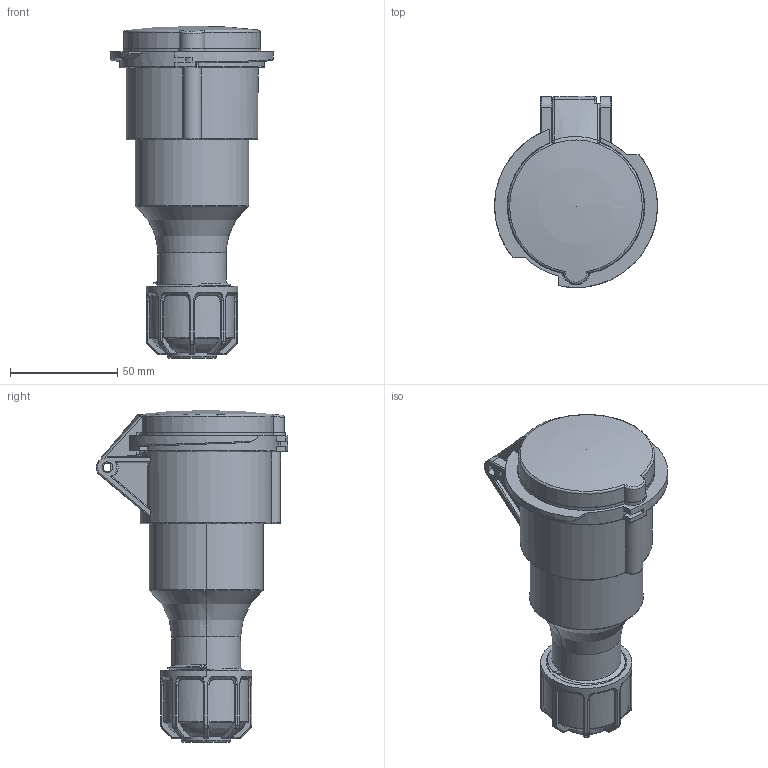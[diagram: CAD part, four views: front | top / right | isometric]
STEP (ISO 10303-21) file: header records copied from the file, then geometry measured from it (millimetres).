
FILE_DESCRIPTION(('FreeCAD Model'),'2;1');
FILE_NAME('Open CASCADE Shape Model','2026-02-04T09:27:41',(''),(''), 'Open CASCADE STEP processor 7.8','FreeCAD','Unknown');
FILE_SCHEMA(('AUTOMOTIVE_DESIGN { 1 0 10303 214 1 1 1 1 }'));
Length unit declared in the file: millimetre
Products named in the file (4): TL3T16453; Tampa; Prensa cabo; Corpo tomada
Assembly tree (3 placements, depth 2):
  TL3T16453
    Tampa
    Prensa cabo
    Corpo tomada
Bounding box: 75.78 x 88.98 x 154.5 mm (x, y, z)
Volume: 278439.9 mm3; surface area: 61250 mm2
Topology: 3 solids, 40 shells, 713 faces, 1749 edges, 1121 vertices
Faces by surface type: plane 272, bspline 200, cylinder 144, torus 55, sphere 21, cone 21
Full cylindrical faces by diameter (mm): 7.5 x1
Entity records: 40971 total; most frequent: CARTESIAN_POINT 25582, ORIENTED_EDGE 3496, DIRECTION 2677, EDGE_CURVE 1748, VERTEX_POINT 1121, AXIS2_PLACEMENT_3D 1008, FACE_BOUND 725, EDGE_LOOP 725
